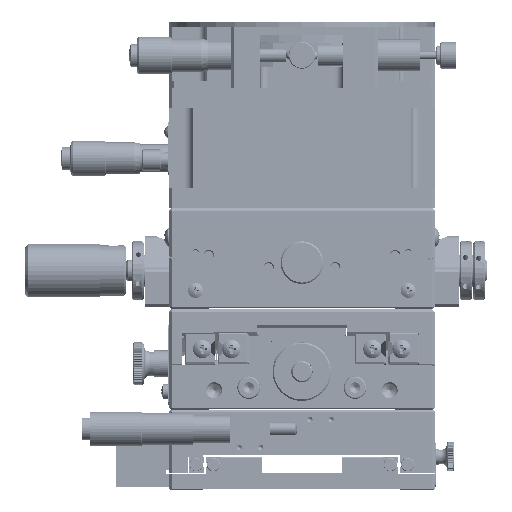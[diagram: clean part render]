
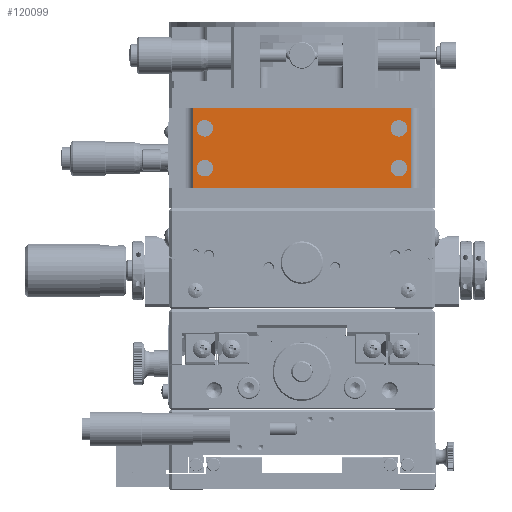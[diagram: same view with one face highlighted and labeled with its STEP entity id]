
A CAD part, front view. The second image highlights one B-rep face of the part: STEP entity #120099.
In plain terms, the highlighted planar face has unit normal (0, -1, 0).
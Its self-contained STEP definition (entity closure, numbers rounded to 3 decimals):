
#1454 = CIRCLE ( 'NONE', #58419, 3.1 ) ;
#7061 = ORIENTED_EDGE ( 'NONE', *, *, #18925, .F. ) ;
#8732 = CARTESIAN_POINT ( 'NONE',  ( 43.639, 31.164, 201.386 ) ) ;
#11548 = VERTEX_POINT ( 'NONE', #276981 ) ;
#11574 = DIRECTION ( 'NONE',  ( -1., 0., 0. ) ) ;
#15653 = CARTESIAN_POINT ( 'NONE',  ( 45.279, 31.164, 231.986 ) ) ;
#17938 = ORIENTED_EDGE ( 'NONE', *, *, #71161, .F. ) ;
#18150 = DIRECTION ( 'NONE',  ( 0., 0., -1. ) ) ;
#18925 = EDGE_CURVE ( 'NONE', #110840, #160258, #106772, .T. ) ;
#19943 = EDGE_CURVE ( 'NONE', #56586, #234838, #188002, .T. ) ;
#20688 = DIRECTION ( 'NONE',  ( 0., 0., -1. ) ) ;
#21430 = AXIS2_PLACEMENT_3D ( 'NONE', #110019, #154808, #69101 ) ;
#22918 = EDGE_LOOP ( 'NONE', ( #180739, #51072 ) ) ;
#24679 = LINE ( 'NONE', #15653, #38362 ) ;
#27775 = EDGE_CURVE ( 'NONE', #182005, #142904, #235268, .T. ) ;
#29998 = DIRECTION ( 'NONE',  ( 0., -1., 0. ) ) ;
#30639 = ORIENTED_EDGE ( 'NONE', *, *, #171634, .F. ) ;
#33910 = VERTEX_POINT ( 'NONE', #197661 ) ;
#38362 = VECTOR ( 'NONE', #211923, 1000. ) ;
#45386 = ORIENTED_EDGE ( 'NONE', *, *, #19943, .F. ) ;
#47912 = DIRECTION ( 'NONE',  ( 0., -1., 0. ) ) ;
#49349 = ORIENTED_EDGE ( 'NONE', *, *, #127385, .F. ) ;
#51072 = ORIENTED_EDGE ( 'NONE', *, *, #233113, .F. ) ;
#54034 = EDGE_CURVE ( 'NONE', #160258, #110840, #279789, .T. ) ;
#56586 = VERTEX_POINT ( 'NONE', #168443 ) ;
#58419 = AXIS2_PLACEMENT_3D ( 'NONE', #91685, #47912, #241373 ) ;
#59848 = CARTESIAN_POINT ( 'NONE',  ( 45.279, 31.164, 201.386 ) ) ;
#60338 = VECTOR ( 'NONE', #81977, 1000. ) ;
#61296 = VERTEX_POINT ( 'NONE', #123454 ) ;
#65226 = ORIENTED_EDGE ( 'NONE', *, *, #54034, .F. ) ;
#65831 = CARTESIAN_POINT ( 'NONE',  ( 122.779, 31.164, 220.786 ) ) ;
#66096 = VECTOR ( 'NONE', #140581, 1000. ) ;
#67000 = AXIS2_PLACEMENT_3D ( 'NONE', #149314, #192253, #20688 ) ;
#69101 = DIRECTION ( 'NONE',  ( 0., 0., -1. ) ) ;
#70094 = CARTESIAN_POINT ( 'NONE',  ( 49.779, 31.164, 205.786 ) ) ;
#71161 = EDGE_CURVE ( 'NONE', #11548, #112896, #1454, .T. ) ;
#72152 = EDGE_LOOP ( 'NONE', ( #201127, #243043 ) ) ;
#73642 = CARTESIAN_POINT ( 'NONE',  ( 49.779, 31.164, 226.986 ) ) ;
#77471 = ORIENTED_EDGE ( 'NONE', *, *, #199628, .F. ) ;
#79035 = CARTESIAN_POINT ( 'NONE',  ( 122.779, 31.164, 223.886 ) ) ;
#81977 = DIRECTION ( 'NONE',  ( 0., 0., -1. ) ) ;
#85722 = CARTESIAN_POINT ( 'NONE',  ( 122.779, 31.164, 208.886 ) ) ;
#89984 = FACE_BOUND ( 'NONE', #129500, .T. ) ;
#91685 = CARTESIAN_POINT ( 'NONE',  ( 49.779, 31.164, 223.886 ) ) ;
#94642 = DIRECTION ( 'NONE',  ( 0., 0., 1. ) ) ;
#95600 = PLANE ( 'NONE',  #101534 ) ;
#100435 = DIRECTION ( 'NONE',  ( 0., -1., 0. ) ) ;
#101534 = AXIS2_PLACEMENT_3D ( 'NONE', #158556, #115684, #94642 ) ;
#104329 = AXIS2_PLACEMENT_3D ( 'NONE', #115367, #203902, #223017 ) ;
#106772 = CIRCLE ( 'NONE', #118372, 3.1 ) ;
#110019 = CARTESIAN_POINT ( 'NONE',  ( 49.779, 31.164, 208.886 ) ) ;
#110840 = VERTEX_POINT ( 'NONE', #123018 ) ;
#112896 = VERTEX_POINT ( 'NONE', #73642 ) ;
#115367 = CARTESIAN_POINT ( 'NONE',  ( 122.779, 31.164, 223.886 ) ) ;
#115684 = DIRECTION ( 'NONE',  ( 0., 1., 0. ) ) ;
#118372 = AXIS2_PLACEMENT_3D ( 'NONE', #85722, #238191, #18150 ) ;
#119927 = CIRCLE ( 'NONE', #67000, 3.1 ) ;
#120099 = ADVANCED_FACE ( 'NONE', ( #154813, #147969, #89984, #257182, #199101 ), #95600, .F. ) ;
#123018 = CARTESIAN_POINT ( 'NONE',  ( 122.779, 31.164, 205.786 ) ) ;
#123454 = CARTESIAN_POINT ( 'NONE',  ( 122.779, 31.164, 226.986 ) ) ;
#127385 = EDGE_CURVE ( 'NONE', #234838, #33910, #24679, .T. ) ;
#129500 = EDGE_LOOP ( 'NONE', ( #7061, #65226 ) ) ;
#139946 = VERTEX_POINT ( 'NONE', #241130 ) ;
#140581 = DIRECTION ( 'NONE',  ( 1., 0., 0. ) ) ;
#142904 = VERTEX_POINT ( 'NONE', #194376 ) ;
#147969 = FACE_BOUND ( 'NONE', #156756, .T. ) ;
#149314 = CARTESIAN_POINT ( 'NONE',  ( 49.779, 31.164, 223.886 ) ) ;
#152440 = EDGE_CURVE ( 'NONE', #142904, #182005, #202047, .T. ) ;
#154223 = EDGE_CURVE ( 'NONE', #195194, #61296, #272987, .T. ) ;
#154808 = DIRECTION ( 'NONE',  ( 0., -1., 0. ) ) ;
#154813 = FACE_BOUND ( 'NONE', #22918, .T. ) ;
#156756 = EDGE_LOOP ( 'NONE', ( #17938, #77471 ) ) ;
#158556 = CARTESIAN_POINT ( 'NONE',  ( 43.639, 31.164, 231.986 ) ) ;
#160258 = VERTEX_POINT ( 'NONE', #262488 ) ;
#161590 = CARTESIAN_POINT ( 'NONE',  ( 43.639, 31.164, 231.386 ) ) ;
#168443 = CARTESIAN_POINT ( 'NONE',  ( 127.279, 31.164, 201.386 ) ) ;
#171634 = EDGE_CURVE ( 'NONE', #139946, #56586, #196694, .T. ) ;
#175190 = EDGE_CURVE ( 'NONE', #33910, #139946, #188894, .T. ) ;
#180739 = ORIENTED_EDGE ( 'NONE', *, *, #154223, .F. ) ;
#181478 = DIRECTION ( 'NONE',  ( 0., 0., -1. ) ) ;
#182005 = VERTEX_POINT ( 'NONE', #70094 ) ;
#183330 = CARTESIAN_POINT ( 'NONE',  ( 122.779, 31.164, 208.886 ) ) ;
#185294 = CARTESIAN_POINT ( 'NONE',  ( 49.779, 31.164, 208.886 ) ) ;
#188002 = LINE ( 'NONE', #8732, #194787 ) ;
#188894 = LINE ( 'NONE', #161590, #66096 ) ;
#192253 = DIRECTION ( 'NONE',  ( 0., -1., 0. ) ) ;
#194376 = CARTESIAN_POINT ( 'NONE',  ( 49.779, 31.164, 211.986 ) ) ;
#194787 = VECTOR ( 'NONE', #11574, 1000. ) ;
#195020 = AXIS2_PLACEMENT_3D ( 'NONE', #183330, #29998, #181478 ) ;
#195194 = VERTEX_POINT ( 'NONE', #65831 ) ;
#196694 = LINE ( 'NONE', #236313, #60338 ) ;
#197661 = CARTESIAN_POINT ( 'NONE',  ( 45.279, 31.164, 231.386 ) ) ;
#199101 = FACE_OUTER_BOUND ( 'NONE', #254660, .T. ) ;
#199628 = EDGE_CURVE ( 'NONE', #112896, #11548, #119927, .T. ) ;
#201127 = ORIENTED_EDGE ( 'NONE', *, *, #27775, .F. ) ;
#202047 = CIRCLE ( 'NONE', #219064, 3.1 ) ;
#203902 = DIRECTION ( 'NONE',  ( 0., -1., 0. ) ) ;
#207116 = DIRECTION ( 'NONE',  ( 0., 0., -1. ) ) ;
#211923 = DIRECTION ( 'NONE',  ( 0., 0., 1. ) ) ;
#212072 = ORIENTED_EDGE ( 'NONE', *, *, #175190, .F. ) ;
#219064 = AXIS2_PLACEMENT_3D ( 'NONE', #185294, #100435, #207116 ) ;
#223017 = DIRECTION ( 'NONE',  ( 0., 0., -1. ) ) ;
#231412 = AXIS2_PLACEMENT_3D ( 'NONE', #79035, #233367, #254376 ) ;
#233113 = EDGE_CURVE ( 'NONE', #61296, #195194, #257102, .T. ) ;
#233367 = DIRECTION ( 'NONE',  ( 0., -1., 0. ) ) ;
#234838 = VERTEX_POINT ( 'NONE', #59848 ) ;
#235268 = CIRCLE ( 'NONE', #21430, 3.1 ) ;
#236313 = CARTESIAN_POINT ( 'NONE',  ( 127.279, 31.164, 231.986 ) ) ;
#238191 = DIRECTION ( 'NONE',  ( 0., -1., 0. ) ) ;
#241130 = CARTESIAN_POINT ( 'NONE',  ( 127.279, 31.164, 231.386 ) ) ;
#241373 = DIRECTION ( 'NONE',  ( 0., 0., -1. ) ) ;
#243043 = ORIENTED_EDGE ( 'NONE', *, *, #152440, .F. ) ;
#254376 = DIRECTION ( 'NONE',  ( 0., 0., -1. ) ) ;
#254660 = EDGE_LOOP ( 'NONE', ( #30639, #212072, #49349, #45386 ) ) ;
#257102 = CIRCLE ( 'NONE', #231412, 3.1 ) ;
#257182 = FACE_BOUND ( 'NONE', #72152, .T. ) ;
#262488 = CARTESIAN_POINT ( 'NONE',  ( 122.779, 31.164, 211.986 ) ) ;
#272987 = CIRCLE ( 'NONE', #104329, 3.1 ) ;
#276981 = CARTESIAN_POINT ( 'NONE',  ( 49.779, 31.164, 220.786 ) ) ;
#279789 = CIRCLE ( 'NONE', #195020, 3.1 ) ;
